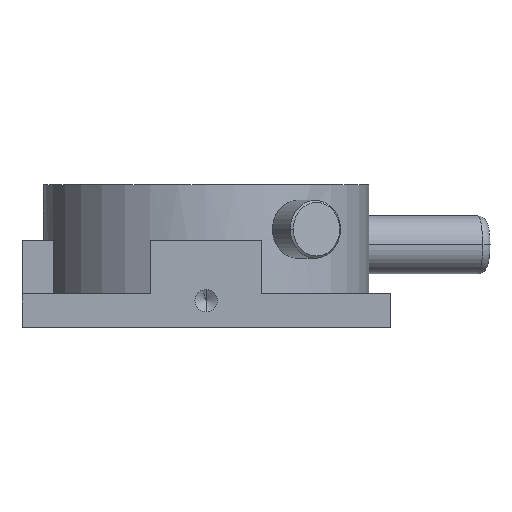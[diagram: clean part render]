
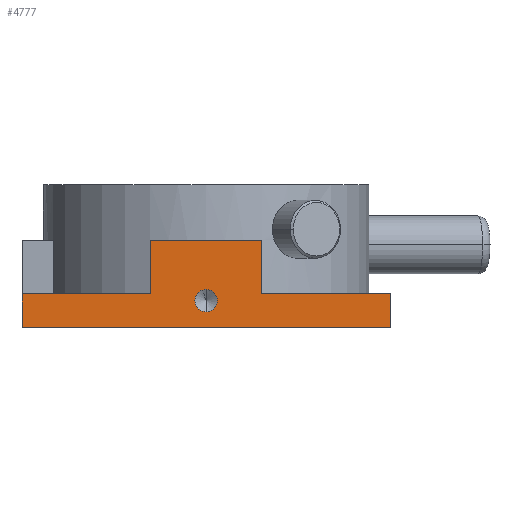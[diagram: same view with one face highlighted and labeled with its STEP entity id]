
A CAD part, front view. The second image highlights one B-rep face of the part: STEP entity #4777.
In plain terms, the highlighted planar face has unit normal (0, -1, 0).
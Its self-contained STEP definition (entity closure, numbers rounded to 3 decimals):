
#67 = ORIENTED_EDGE ( 'NONE', *, *, #6611, .T. ) ;
#433 = AXIS2_PLACEMENT_3D ( 'NONE', #2148, #6279, #6418 ) ;
#510 = VECTOR ( 'NONE', #12930, 1000. ) ;
#569 = LINE ( 'NONE', #7994, #2890 ) ;
#637 = DIRECTION ( 'NONE',  ( -1., 0., 0. ) ) ;
#638 = VECTOR ( 'NONE', #3525, 1000. ) ;
#670 = EDGE_LOOP ( 'NONE', ( #67, #4148, #13227, #8378, #7233, #8142, #9554, #2813, #2251 ) ) ;
#700 = DIRECTION ( 'NONE',  ( 0., -1., 0. ) ) ;
#782 = CARTESIAN_POINT ( 'NONE',  ( -12.122, -43.857, 96.788 ) ) ;
#1567 = VECTOR ( 'NONE', #12682, 1000. ) ;
#1638 = DIRECTION ( 'NONE',  ( -1., 0., 0. ) ) ;
#2122 = EDGE_CURVE ( 'NONE', #2955, #12051, #5551, .T. ) ;
#2145 = VERTEX_POINT ( 'NONE', #3389 ) ;
#2148 = CARTESIAN_POINT ( 'NONE',  ( -53.422, -43.857, 95.288 ) ) ;
#2222 = VERTEX_POINT ( 'NONE', #4163 ) ;
#2251 = ORIENTED_EDGE ( 'NONE', *, *, #2122, .T. ) ;
#2357 = AXIS2_PLACEMENT_3D ( 'NONE', #7874, #700, #4824 ) ;
#2380 = CARTESIAN_POINT ( 'NONE',  ( -53.422, -43.857, 95.288 ) ) ;
#2813 = ORIENTED_EDGE ( 'NONE', *, *, #3051, .T. ) ;
#2890 = VECTOR ( 'NONE', #1638, 1000. ) ;
#2920 = PLANE ( 'NONE',  #2357 ) ;
#2955 = VERTEX_POINT ( 'NONE', #5640 ) ;
#3051 = EDGE_CURVE ( 'NONE', #2222, #2955, #7806, .T. ) ;
#3065 = CARTESIAN_POINT ( 'NONE',  ( -12.122, -43.857, 96.788 ) ) ;
#3112 = EDGE_LOOP ( 'NONE', ( #11073, #10782 ) ) ;
#3204 = DIRECTION ( 'NONE',  ( 0., 0., -1. ) ) ;
#3389 = CARTESIAN_POINT ( 'NONE',  ( -53.422, -43.857, 92.788 ) ) ;
#3453 = VERTEX_POINT ( 'NONE', #10239 ) ;
#3525 = DIRECTION ( 'NONE',  ( 0., 0., 1. ) ) ;
#3736 = CARTESIAN_POINT ( 'NONE',  ( -53.422, -43.857, 108.788 ) ) ;
#3898 = VECTOR ( 'NONE', #637, 1000. ) ;
#4037 = CARTESIAN_POINT ( 'NONE',  ( -94.722, -43.857, 89.288 ) ) ;
#4148 = ORIENTED_EDGE ( 'NONE', *, *, #13120, .T. ) ;
#4163 = CARTESIAN_POINT ( 'NONE',  ( -40.922, -43.857, 108.788 ) ) ;
#4215 = CARTESIAN_POINT ( 'NONE',  ( -12.122, -43.857, 96.788 ) ) ;
#4464 = VERTEX_POINT ( 'NONE', #3065 ) ;
#4607 = CARTESIAN_POINT ( 'NONE',  ( -65.922, -43.857, 96.788 ) ) ;
#4777 = ADVANCED_FACE ( 'NONE', ( #11816, #11886 ), #2920, .T. ) ;
#4824 = DIRECTION ( 'NONE',  ( 0., 0., -1. ) ) ;
#4974 = EDGE_CURVE ( 'NONE', #8820, #2222, #13366, .T. ) ;
#5281 = EDGE_CURVE ( 'NONE', #2145, #3453, #10358, .T. ) ;
#5425 = CARTESIAN_POINT ( 'NONE',  ( -94.722, -43.857, 96.788 ) ) ;
#5551 = LINE ( 'NONE', #8473, #1567 ) ;
#5640 = CARTESIAN_POINT ( 'NONE',  ( -53.422, -43.857, 108.788 ) ) ;
#5990 = CARTESIAN_POINT ( 'NONE',  ( -65.922, -43.857, 108.788 ) ) ;
#6268 = CARTESIAN_POINT ( 'NONE',  ( -12.122, -43.857, 89.288 ) ) ;
#6279 = DIRECTION ( 'NONE',  ( 0., -1., 0. ) ) ;
#6418 = DIRECTION ( 'NONE',  ( 0., 0., -1. ) ) ;
#6611 = EDGE_CURVE ( 'NONE', #12051, #8802, #7905, .T. ) ;
#6647 = CARTESIAN_POINT ( 'NONE',  ( -40.922, -43.857, 96.788 ) ) ;
#6675 = CARTESIAN_POINT ( 'NONE',  ( -65.922, -43.857, 108.788 ) ) ;
#7012 = VECTOR ( 'NONE', #3204, 1000. ) ;
#7199 = AXIS2_PLACEMENT_3D ( 'NONE', #2380, #9497, #12479 ) ;
#7233 = ORIENTED_EDGE ( 'NONE', *, *, #10960, .F. ) ;
#7746 = CARTESIAN_POINT ( 'NONE',  ( -94.722, -43.857, 96.788 ) ) ;
#7760 = CARTESIAN_POINT ( 'NONE',  ( -12.122, -43.857, 96.788 ) ) ;
#7806 = LINE ( 'NONE', #3736, #3898 ) ;
#7811 = LINE ( 'NONE', #7746, #13322 ) ;
#7874 = CARTESIAN_POINT ( 'NONE',  ( -12.122, -43.857, 96.788 ) ) ;
#7905 = LINE ( 'NONE', #5990, #8461 ) ;
#7994 = CARTESIAN_POINT ( 'NONE',  ( -12.122, -43.857, 89.288 ) ) ;
#8142 = ORIENTED_EDGE ( 'NONE', *, *, #11646, .T. ) ;
#8378 = ORIENTED_EDGE ( 'NONE', *, *, #11278, .F. ) ;
#8461 = VECTOR ( 'NONE', #13133, 1000. ) ;
#8473 = CARTESIAN_POINT ( 'NONE',  ( -53.422, -43.857, 108.788 ) ) ;
#8551 = VERTEX_POINT ( 'NONE', #5425 ) ;
#8802 = VERTEX_POINT ( 'NONE', #4607 ) ;
#8820 = VERTEX_POINT ( 'NONE', #10910 ) ;
#9051 = DIRECTION ( 'NONE',  ( -1., 0., 0. ) ) ;
#9144 = CIRCLE ( 'NONE', #7199, 2.5 ) ;
#9375 = LINE ( 'NONE', #4215, #7012 ) ;
#9497 = DIRECTION ( 'NONE',  ( 0., -1., 0. ) ) ;
#9554 = ORIENTED_EDGE ( 'NONE', *, *, #4974, .T. ) ;
#9902 = VERTEX_POINT ( 'NONE', #4037 ) ;
#9969 = DIRECTION ( 'NONE',  ( 0., 0., -1. ) ) ;
#10057 = LINE ( 'NONE', #782, #13271 ) ;
#10239 = CARTESIAN_POINT ( 'NONE',  ( -53.422, -43.857, 97.788 ) ) ;
#10343 = EDGE_CURVE ( 'NONE', #8551, #9902, #7811, .T. ) ;
#10358 = CIRCLE ( 'NONE', #433, 2.5 ) ;
#10782 = ORIENTED_EDGE ( 'NONE', *, *, #12820, .F. ) ;
#10910 = CARTESIAN_POINT ( 'NONE',  ( -40.922, -43.857, 96.788 ) ) ;
#10960 = EDGE_CURVE ( 'NONE', #4464, #11376, #9375, .T. ) ;
#11073 = ORIENTED_EDGE ( 'NONE', *, *, #5281, .F. ) ;
#11278 = EDGE_CURVE ( 'NONE', #11376, #9902, #569, .T. ) ;
#11376 = VERTEX_POINT ( 'NONE', #6268 ) ;
#11646 = EDGE_CURVE ( 'NONE', #4464, #8820, #10057, .T. ) ;
#11816 = FACE_BOUND ( 'NONE', #3112, .T. ) ;
#11886 = FACE_OUTER_BOUND ( 'NONE', #670, .T. ) ;
#11903 = LINE ( 'NONE', #7760, #510 ) ;
#12051 = VERTEX_POINT ( 'NONE', #6675 ) ;
#12479 = DIRECTION ( 'NONE',  ( 0., 0., -1. ) ) ;
#12682 = DIRECTION ( 'NONE',  ( -1., 0., 0. ) ) ;
#12820 = EDGE_CURVE ( 'NONE', #3453, #2145, #9144, .T. ) ;
#12930 = DIRECTION ( 'NONE',  ( -1., 0., 0. ) ) ;
#13120 = EDGE_CURVE ( 'NONE', #8802, #8551, #11903, .T. ) ;
#13133 = DIRECTION ( 'NONE',  ( 0., 0., -1. ) ) ;
#13227 = ORIENTED_EDGE ( 'NONE', *, *, #10343, .T. ) ;
#13271 = VECTOR ( 'NONE', #9051, 1000. ) ;
#13322 = VECTOR ( 'NONE', #9969, 1000. ) ;
#13366 = LINE ( 'NONE', #6647, #638 ) ;
